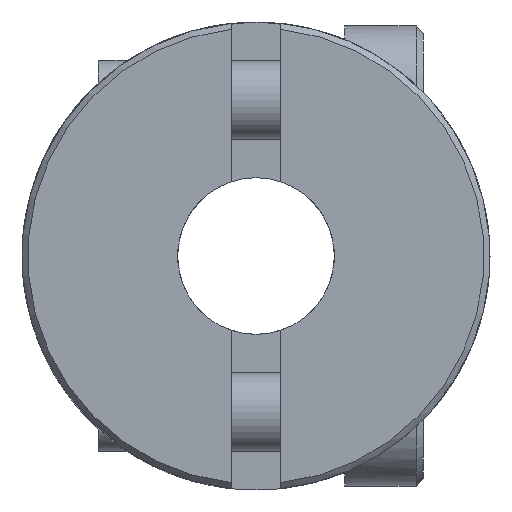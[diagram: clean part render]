
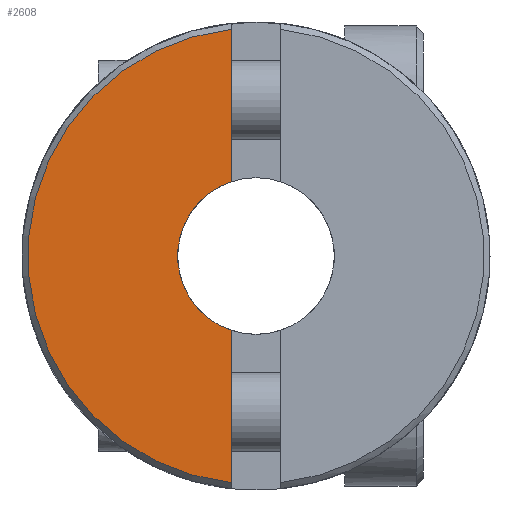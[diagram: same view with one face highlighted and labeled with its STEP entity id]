
A CAD part, front view. The second image highlights one B-rep face of the part: STEP entity #2608.
In plain terms, the highlighted planar face has unit normal (0, -1, 0).
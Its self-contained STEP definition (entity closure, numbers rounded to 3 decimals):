
#1=DIRECTION('',(0.,0.,-1.));
#2=VECTOR('',#1,3.094);
#3=CARTESIAN_POINT('',(-0.5,-7.1,4.603));
#4=LINE('',#3,#2);
#5=DIRECTION('',(0.,0.,-1.));
#6=VECTOR('',#5,3.094);
#7=CARTESIAN_POINT('',(-0.5,-7.1,-1.509));
#8=LINE('',#7,#6);
#72=CARTESIAN_POINT('',(0.,-7.1,0.));
#73=DIRECTION('',(0.,1.,0.));
#74=DIRECTION('',(-0.314,0.,-0.949));
#75=AXIS2_PLACEMENT_3D('',#72,#73,#74);
#1409=CARTESIAN_POINT('',(0.,-7.1,0.));
#1410=DIRECTION('',(0.,-1.,0.));
#1411=DIRECTION('',(-0.108,0.,0.994));
#1412=AXIS2_PLACEMENT_3D('',#1409,#1410,#1411);
#2353=CARTESIAN_POINT('',(-0.5,-7.1,4.603));
#2354=CARTESIAN_POINT('',(-0.5,-7.1,1.509));
#2355=VERTEX_POINT('',#2353);
#2356=VERTEX_POINT('',#2354);
#2357=CARTESIAN_POINT('',(-0.5,-7.1,-1.509));
#2358=CARTESIAN_POINT('',(-0.5,-7.1,-4.603));
#2359=VERTEX_POINT('',#2357);
#2360=VERTEX_POINT('',#2358);
#2593=CARTESIAN_POINT('',(0.,-7.1,0.));
#2594=DIRECTION('',(0.,1.,0.));
#2595=DIRECTION('',(1.,0.,0.));
#2596=AXIS2_PLACEMENT_3D('',#2593,#2594,#2595);
#2597=PLANE('',#2596);
#2599=ORIENTED_EDGE('',*,*,#2598,.T.);
#2601=ORIENTED_EDGE('',*,*,#2600,.F.);
#2603=ORIENTED_EDGE('',*,*,#2602,.T.);
#2605=ORIENTED_EDGE('',*,*,#2604,.F.);
#2606=EDGE_LOOP('',(#2599,#2601,#2603,#2605));
#2607=FACE_OUTER_BOUND('',#2606,.F.);
#2608=ADVANCED_FACE('',(#2607),#2597,.F.);
#76=CIRCLE('',#75,1.59);
#1413=CIRCLE('',#1412,4.63);
#2598=EDGE_CURVE('',#2355,#2356,#4,.T.);
#2600=EDGE_CURVE('',#2359,#2356,#76,.T.);
#2602=EDGE_CURVE('',#2359,#2360,#8,.T.);
#2604=EDGE_CURVE('',#2355,#2360,#1413,.T.);
